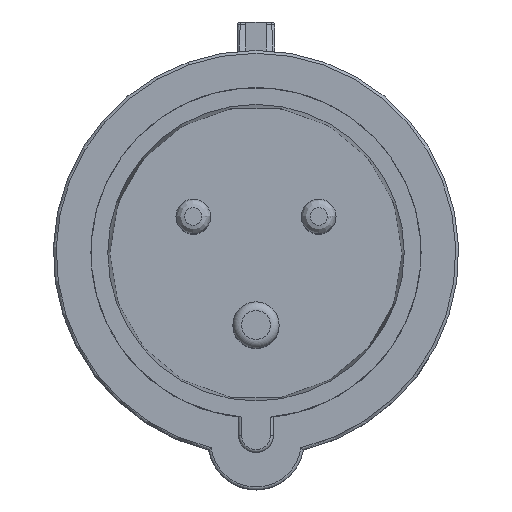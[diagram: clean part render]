
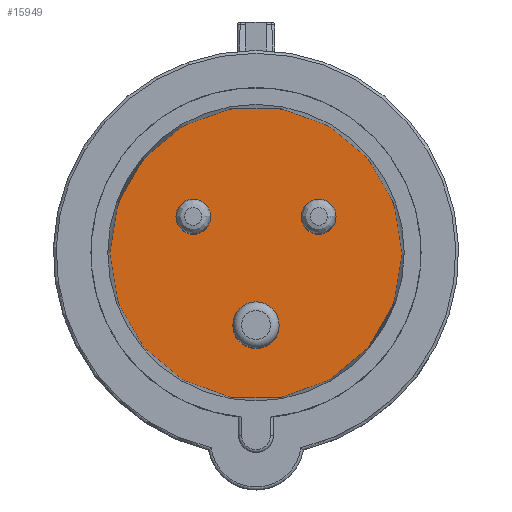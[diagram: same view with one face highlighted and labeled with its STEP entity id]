
A CAD part, top view. The second image highlights one B-rep face of the part: STEP entity #15949.
In plain terms, the highlighted planar face has unit normal (0, 0, 1).
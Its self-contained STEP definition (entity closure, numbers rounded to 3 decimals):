
#15949 = ADVANCED_FACE('',(#15950),#15970,.T.);
#15950 = FACE_BOUND('',#15951,.T.);
#15951 = EDGE_LOOP('',(#15952,#15963));
#15952 = ORIENTED_EDGE('',*,*,#15953,.F.);
#15953 = EDGE_CURVE('',#15954,#15956,#15958,.T.);
#15954 = VERTEX_POINT('',#15955);
#15955 = CARTESIAN_POINT('',(-25.25,0.,
    0.));
#15956 = VERTEX_POINT('',#15957);
#15957 = CARTESIAN_POINT('',(25.25,0.,
    0.));
#15958 = CIRCLE('',#15959,25.25);
#15959 = AXIS2_PLACEMENT_3D('',#15960,#15961,#15962);
#15960 = CARTESIAN_POINT('',(0.,0.,0.));
#15961 = DIRECTION('',(0.,0.,-1.));
#15962 = DIRECTION('',(-1.,0.,0.));
#15963 = ORIENTED_EDGE('',*,*,#15964,.F.);
#15964 = EDGE_CURVE('',#15956,#15954,#15965,.T.);
#15965 = CIRCLE('',#15966,25.25);
#15966 = AXIS2_PLACEMENT_3D('',#15967,#15968,#15969);
#15967 = CARTESIAN_POINT('',(0.,0.,0.));
#15968 = DIRECTION('',(0.,0.,-1.));
#15969 = DIRECTION('',(1.,0.,0.));
#15970 = PLANE('',#15971);
#15971 = AXIS2_PLACEMENT_3D('',#15972,#15973,#15974);
#15972 = CARTESIAN_POINT('',(0.,0.,0.));
#15973 = DIRECTION('',(0.,0.,1.));
#15974 = DIRECTION('',(1.,0.,-0.));
